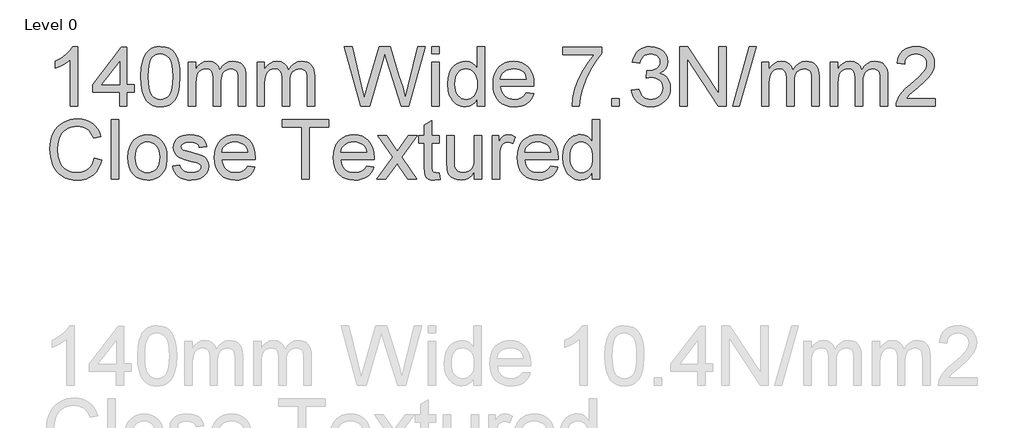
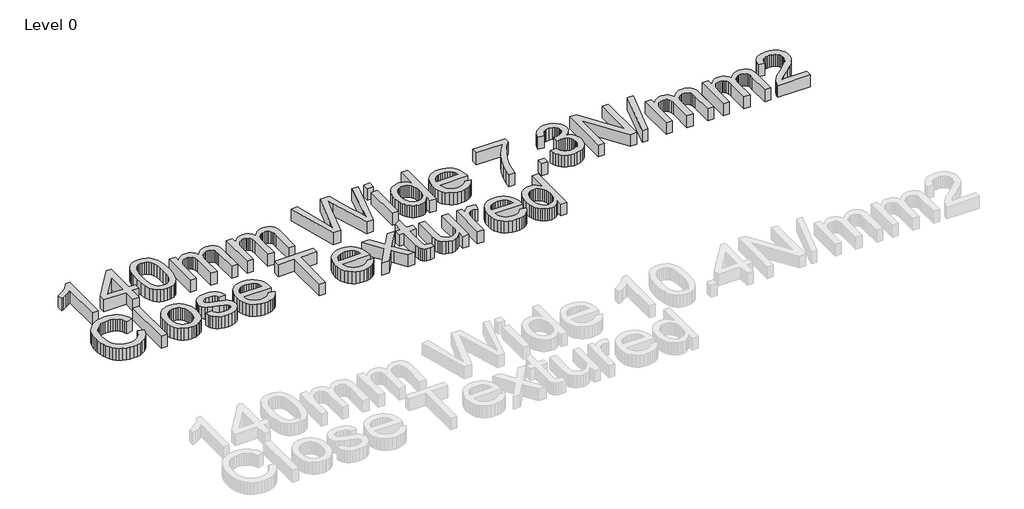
# One storey, part 9 of 14: 1 proxy.
"""IFC4 building model written with IfcOpenShell, lengths in millimetres."""

from ifc_helpers import new_model, si_unit, origin, origin_with_axes, place, context, project, spatial, polyline, outline, extrude, element, save

model = new_model("IFC4")

# Units and contexts
model_context = context("Model", 3, world=origin())
ifc_project = project(units=[si_unit("LENGTHUNIT", "METRE", prefix="MILLI")], contexts=[model_context])

# Site, building, storey
site = spatial("IfcSite", under=ifc_project)
building = spatial("IfcBuilding", under=site)
storey = spatial("IfcBuildingStorey", under=building, Name="Level 0", Elevation=0.0)

# Proxy
placement = place(None, origin())
element("IfcBuildingElementProxy", 1, Name="600mm Arial", ObjectType="600mm Arial", at=placement, inside=storey, context=model_context, shape_type="SweptSolid", body=[
    extrude(outline(polyline([(-13529.5844607, 14363.068453), (-13603.4306145, 14363.068453), (-13603.4306145, 14823.4530684), (-13634.2599414, 14798.5191742), (-13673.3825376, 14773.6213376), (-13714.4522491, 14751.8605203), (-13751.1229222, 14736.3376838), (-13751.1229222, 14806.1453761), (-13693.1241241, 14837.6958568), (-13642.8777299, 14875.2319145), (-13603.2683549, 14915.1477799), (-13577.1806145, 14953.8376838), (-13529.5844607, 14953.8376838), (-13529.5844607, 14363.068453)])), origin_with_axes(), (0.0, 0.0, 1.0), 150.0),
    extrude(outline(polyline([(-13114.1998453, 14363.068453), (-13114.1998453, 14501.5299915), (-13381.892153, 14501.5299915), (-13381.892153, 14575.3761453), (-13095.7383068, 14944.6069145), (-13040.3536914, 14944.6069145), (-13040.3536914, 14575.3761453), (-12966.5075376, 14575.3761453), (-12966.5075376, 14501.5299915), (-13040.3536914, 14501.5299915), (-13040.3536914, 14363.068453), (-13114.1998453, 14363.068453)]), holes=[polyline([(-13114.1998453, 14575.3761453), (-13114.1998453, 14803.5492222), (-13291.0267683, 14575.3761453), (-13114.1998453, 14575.3761453)])]), origin_with_axes(), (0.0, 0.0, 1.0), 150.0),
    extrude(outline(polyline([(-12901.892153, 14653.693453), (-12896.4654703, 14748.2547511), (-12889.6821169, 14788.3554121), (-12880.1854222, 14823.6694145), (-12868.015951, 14854.4852198), (-12853.2142683, 14881.0912895), (-12835.7803741, 14903.4876237), (-12815.7142683, 14921.6742222), (-12792.9483429, 14935.7457367), (-12767.4149895, 14945.7968184), (-12739.1142082, 14951.8274674), (-12708.0459991, 14953.8376838), (-12662.5411914, 14949.0780684), (-12621.7959991, 14934.7992222), (-12587.7214799, 14911.5600395), (-12562.2286914, 14879.9194145), (-12542.9738837, 14840.1477799), (-12527.6133068, 14792.5155684), (-12517.5532107, 14732.0287895), (-12514.1998453, 14653.693453), (-12519.5724414, 14559.6730203), (-12526.2881866, 14519.7075756), (-12535.6902299, 14484.4386453), (-12547.7650496, 14453.6093184), (-12562.4991241, 14426.9626838), (-12579.8924534, 14404.4987415), (-12599.9450376, 14386.2174915), (-12622.7380063, 14372.0513256), (-12648.3524895, 14361.9326357), (-12676.7884871, 14355.8614218), (-12708.0459991, 14353.8376838), (-12748.719076, 14357.3533088), (-12784.7767683, 14367.9001838), (-12816.219076, 14385.4783088), (-12843.0459991, 14410.0876838), (-12868.7911914, 14454.5738617), (-12887.1806145, 14510.0035492), (-12898.2142683, 14576.3767463), (-12901.892153, 14653.693453)]), holes=[polyline([(-12828.0459991, 14653.8376838), (-12825.8825376, 14589.6414698), (-12819.392153, 14537.677828), (-12808.5748453, 14497.9467583), (-12793.4306145, 14470.4482607), (-12775.1133068, 14451.7388256), (-12754.7767683, 14438.3749434), (-12732.4209991, 14430.3566141), (-12708.0459991, 14427.6838376), (-12683.6709991, 14430.3656285), (-12661.3152299, 14438.4110011), (-12640.9786914, 14451.8199554), (-12622.6613837, 14470.5924915), (-12607.517153, 14498.1360612), (-12596.6998453, 14537.8581165), (-12590.2094607, 14589.7586573), (-12588.0459991, 14653.8376838), (-12590.1373453, 14716.334679), (-12596.4113837, 14767.3833568), (-12606.8681145, 14806.9837174), (-12621.5075376, 14835.1357607), (-12639.5183549, 14854.7601597), (-12660.0892683, 14868.7775876), (-12683.220278, 14877.1880443), (-12708.9113837, 14879.9915299), (-12733.1601818, 14877.521578), (-12755.1373453, 14870.1117222), (-12774.8428741, 14857.7619626), (-12792.2767683, 14840.4722992), (-12807.9258068, 14809.8232607), (-12819.1036914, 14768.5011453), (-12825.8104222, 14716.505953), (-12828.0459991, 14653.8376838)])]), origin_with_axes(), (0.0, 0.0, 1.0), 150.0),
    extrude(outline(polyline([(-12431.1229222, 14363.068453), (-12431.1229222, 14796.9146068), (-12357.2767683, 14796.9146068), (-12357.2767683, 14725.5203761), (-12335.0652299, 14758.3148472), (-12306.5075376, 14784.005953), (-12272.5772491, 14800.6105203), (-12234.2479222, 14806.1453761), (-12193.1782107, 14800.5023472), (-12175.6992443, 14793.4485612), (-12160.2575376, 14783.5732607), (-12135.6661914, 14756.4759049), (-12119.5844607, 14720.3280684), (-12092.6673933, 14757.8731405), (-12061.9642683, 14784.6910492), (-12027.4750857, 14800.7817943), (-11989.1998453, 14806.1453761), (-11959.6370448, 14803.9143064), (-11933.689028, 14797.2210972), (-11911.3557948, 14786.0657487), (-11892.6373453, 14770.4482607), (-11877.8401698, 14750.1883448), (-11867.2707587, 14725.1057126), (-11860.9291121, 14695.2003641), (-11858.8152299, 14660.4722992), (-11858.8152299, 14363.068453), (-11932.6613837, 14363.068453), (-11932.6613837, 14628.7415299), (-11934.3741241, 14665.5744626), (-11939.5123453, 14690.4001838), (-11949.1397491, 14707.4013857), (-11964.3200376, 14720.7607607), (-11983.845278, 14729.4146068), (-12006.5075376, 14732.2992222), (-12027.4345207, 14730.4512655), (-12046.5135472, 14724.9073953), (-12063.7446169, 14715.6676117), (-12079.1277299, 14702.7319145), (-12091.7794727, 14685.7216982), (-12100.8164318, 14664.2583568), (-12106.2386073, 14638.3418905), (-12108.0459991, 14607.9722992), (-12108.0459991, 14363.068453), (-12181.892153, 14363.068453), (-12181.892153, 14636.9626838), (-12186.1649895, 14678.7174915), (-12198.9834991, 14708.5011453), (-12208.8948573, 14718.912804), (-12221.5375857, 14726.349703), (-12236.9116842, 14730.8118424), (-12255.017153, 14732.2992222), (-12283.4666722, 14728.3328761), (-12309.6806145, 14716.4338376), (-12331.3152299, 14696.8905684), (-12346.0267683, 14669.9915299), (-12354.4642683, 14632.6718184), (-12357.2767683, 14581.8665299), (-12357.2767683, 14363.068453), (-12431.1229222, 14363.068453)])), origin_with_axes(), (0.0, 0.0, 1.0), 150.0),
    extrude(outline(polyline([(-11748.0459991, 14363.068453), (-11748.0459991, 14796.9146068), (-11674.1998453, 14796.9146068), (-11674.1998453, 14725.5203761), (-11651.9883068, 14758.3148472), (-11623.4306145, 14784.005953), (-11589.500326, 14800.6105203), (-11551.1709991, 14806.1453761), (-11510.1012876, 14800.5023472), (-11492.6223212, 14793.4485612), (-11477.1806145, 14783.5732607), (-11452.5892683, 14756.4759049), (-11436.5075376, 14720.3280684), (-11409.5904703, 14757.8731405), (-11378.8873453, 14784.6910492), (-11344.3981626, 14800.7817943), (-11306.1229222, 14806.1453761), (-11276.5601217, 14803.9143064), (-11250.6121049, 14797.2210972), (-11228.2788717, 14786.0657487), (-11209.5604222, 14770.4482607), (-11194.7632467, 14750.1883448), (-11184.1938357, 14725.1057126), (-11177.852189, 14695.2003641), (-11175.7383068, 14660.4722992), (-11175.7383068, 14363.068453), (-11249.5844607, 14363.068453), (-11249.5844607, 14628.7415299), (-11251.297201, 14665.5744626), (-11256.4354222, 14690.4001838), (-11266.062826, 14707.4013857), (-11281.2431145, 14720.7607607), (-11300.7683549, 14729.4146068), (-11323.4306145, 14732.2992222), (-11344.3575977, 14730.4512655), (-11363.4366241, 14724.9073953), (-11380.6676938, 14715.6676117), (-11396.0508068, 14702.7319145), (-11408.7025496, 14685.7216982), (-11417.7395087, 14664.2583568), (-11423.1616842, 14638.3418905), (-11424.969076, 14607.9722992), (-11424.969076, 14363.068453), (-11498.8152299, 14363.068453), (-11498.8152299, 14636.9626838), (-11503.0880664, 14678.7174915), (-11515.906576, 14708.5011453), (-11525.8179342, 14718.912804), (-11538.4606626, 14726.349703), (-11553.8347611, 14730.8118424), (-11571.9402299, 14732.2992222), (-11600.3897491, 14728.3328761), (-11626.6036914, 14716.4338376), (-11648.2383068, 14696.8905684), (-11662.9498453, 14669.9915299), (-11671.3873453, 14632.6718184), (-11674.1998453, 14581.8665299), (-11674.1998453, 14363.068453), (-11748.0459991, 14363.068453)])), origin_with_axes(), (0.0, 0.0, 1.0), 150.0),
    extrude(outline(polyline([(-10719.2479222, 14363.068453), (-10880.3536914, 14953.8376838), (-10804.1998453, 14953.8376838), (-10710.7383068, 14565.568453), (-10681.892153, 14445.7126838), (-10651.0267683, 14551.7222992), (-10533.9113837, 14953.8376838), (-10424.1517683, 14953.8376838), (-10339.0556145, 14662.3472992), (-10302.6012876, 14554.1742222), (-10275.7383068, 14445.7126838), (-10247.7575376, 14562.1069145), (-10153.4306145, 14953.8376838), (-10077.2767683, 14953.8376838), (-10238.5267683, 14363.068453), (-10317.4209991, 14363.068453), (-10459.0556145, 14818.8376838), (-10478.8152299, 14882.443453), (-10501.0267683, 14805.8569145), (-10630.1133068, 14363.068453), (-10719.2479222, 14363.068453)])), origin_with_axes(), (0.0, 0.0, 1.0), 150.0),
    extrude(outline(polyline([(-10012.6613837, 14363.068453), (-10012.6613837, 14796.9146068), (-9938.8152299, 14796.9146068), (-9938.8152299, 14363.068453), (-10012.6613837, 14363.068453)])), origin_with_axes(), (0.0, 0.0, 1.0), 150.0),
    extrude(outline(polyline([(-10012.6613837, 14879.9915299), (-10012.6613837, 14953.8376838), (-9938.8152299, 14953.8376838), (-9938.8152299, 14879.9915299), (-10012.6613837, 14879.9915299)])), origin_with_axes(), (0.0, 0.0, 1.0), 150.0),
    extrude(outline(polyline([(-9560.3536914, 14363.068453), (-9560.3536914, 14432.7319145), (-9582.4480424, 14398.2156886), (-9609.2118645, 14373.5612415), (-9640.6451578, 14358.7685732), (-9676.7479222, 14353.8376838), (-9701.1229222, 14355.6225395), (-9724.4883068, 14360.9771068), (-9746.844076, 14369.9013857), (-9768.1902299, 14382.3953761), (-9787.859701, 14398.0849794), (-9805.1854222, 14416.5960972), (-9820.1673933, 14437.9287294), (-9832.8056145, 14462.0828761), (-9842.8386674, 14488.5988016), (-9850.0051337, 14517.0167703), (-9855.7383068, 14579.5588376), (-9850.4558549, 14641.3256645), (-9834.6084991, 14697.1069145), (-9822.7274895, 14721.959679), (-9808.2142683, 14743.7295107), (-9791.0688357, 14762.4164097), (-9771.2911914, 14778.0203761), (-9749.5799534, 14790.3250636), (-9726.6337395, 14799.1141261), (-9702.4525496, 14804.3875636), (-9677.0363837, 14806.1453761), (-9640.906576, 14801.115328), (-9608.9594607, 14786.0251838), (-9581.8801337, 14762.8941742), (-9560.3536914, 14733.7415299), (-9560.3536914, 14953.8376838), (-9486.5075376, 14953.8376838), (-9486.5075376, 14363.068453), (-9560.3536914, 14363.068453)]), holes=[polyline([(-9781.892153, 14579.8472992), (-9779.8098212, 14544.0375035), (-9773.562826, 14513.0504242), (-9763.1511674, 14486.8860612), (-9748.5748453, 14465.5444145), (-9731.1679943, 14448.9804121), (-9712.2647491, 14437.1489818), (-9691.8651097, 14430.0501237), (-9669.969076, 14427.6838376), (-9647.9693765, 14429.9419506), (-9627.6914318, 14436.7162895), (-9609.1352419, 14448.0068544), (-9592.3008068, 14463.8136453), (-9578.3239438, 14484.2628641), (-9568.3404703, 14509.4807126), (-9562.3503861, 14539.467191), (-9560.3536914, 14574.2222992), (-9562.3864438, 14612.3262655), (-9568.484701, 14645.0035492), (-9578.6484631, 14672.2541501), (-9592.8777299, 14694.0780684), (-9610.0817563, 14710.7998232), (-9629.1697972, 14722.7439338), (-9650.1418525, 14729.9104001), (-9672.9979222, 14732.2992222), (-9695.3266482, 14730.0050516), (-9715.7262876, 14723.1225395), (-9734.1968405, 14711.6516862), (-9750.7383068, 14695.5924915), (-9764.3681145, 14674.5933929), (-9774.1036914, 14648.302828), (-9779.9450376, 14616.7207968), (-9781.892153, 14579.8472992)])]), origin_with_axes(), (0.0, 0.0, 1.0), 150.0),
    extrude(outline(polyline([(-9071.9883068, 14492.2992222), (-8999.5844607, 14483.068453), (-9010.6857227, 14454.069054), (-9025.672201, 14428.5131645), (-9044.5438957, 14406.4007847), (-9067.3008068, 14387.7319145), (-9093.7085592, 14372.9031886), (-9123.532778, 14362.3112415), (-9156.7734631, 14355.9560732), (-9193.4306145, 14353.8376838), (-9239.250927, 14357.4930323), (-9280.0772491, 14368.459078), (-9315.9095808, 14386.7358208), (-9346.7479222, 14412.3232607), (-9371.5466001, 14444.5092583), (-9389.2599414, 14482.5816742), (-9399.8879462, 14526.5405083), (-9403.4306145, 14576.3857607), (-9399.8518885, 14627.9212174), (-9389.1157107, 14673.3448953), (-9371.2220808, 14712.6567943), (-9346.1709991, 14745.8569145), (-9315.4137876, 14772.2331165), (-9280.4017683, 14791.0732607), (-9241.1349414, 14802.3773472), (-9197.6133068, 14806.1453761), (-9155.493415, 14802.3863617), (-9117.4029703, 14791.1093184), (-9083.3419727, 14772.3142463), (-9053.3104222, 14746.0011453), (-9028.7956986, 14712.8731405), (-9011.2851818, 14673.6333568), (-9000.7788717, 14628.2817943), (-8997.2767683, 14576.818453), (-8997.7094607, 14556.9146068), (-9329.5844607, 14556.9146068), (-9325.3071169, 14527.4464578), (-9316.8020087, 14501.6381645), (-9304.0691361, 14479.489727), (-9287.1084991, 14461.0011453), (-9266.8575977, 14446.4248232), (-9244.2539318, 14436.0131645), (-9219.2975015, 14429.7661693), (-9191.9883068, 14427.6838376), (-9152.6854222, 14431.5420107), (-9119.5844607, 14443.1165299), (-9092.6854222, 14463.1285492), (-9071.9883068, 14492.2992222)]), holes=[polyline([(-9329.5844607, 14630.7607607), (-9071.1229222, 14630.7607607), (-9081.110903, 14669.7751838), (-9089.7016482, 14685.1177318), (-9100.6902299, 14697.6838376), (-9120.828451, 14712.8280684), (-9143.7431145, 14723.6453761), (-9169.4342203, 14730.1357607), (-9197.9017683, 14732.2992222), (-9223.867814, 14730.5729602), (-9247.6794126, 14725.3941742), (-9269.336564, 14716.7628641), (-9288.8392683, 14704.6790299), (-9305.2049534, 14689.701566), (-9317.4510472, 14672.3893665), (-9325.5775496, 14652.7424314), (-9329.5844607, 14630.7607607)])]), origin_with_axes(), (0.0, 0.0, 1.0), 150.0),
    extrude(outline(polyline([(-8711.1229222, 14870.7607607), (-8711.1229222, 14944.6069145), (-8323.4306145, 14944.6069145), (-8323.4306145, 14884.8953761), (-8378.689028, 14814.9614818), (-8433.406576, 14726.0251838), (-8481.6697972, 14626.1994626), (-8517.5652299, 14523.5972992), (-8535.1613837, 14446.8304722), (-8544.969076, 14363.068453), (-8618.8152299, 14363.068453), (-8610.828451, 14439.1862415), (-8589.4642683, 14529.6549915), (-8555.2996049, 14625.5504242), (-8508.9113837, 14717.9482607), (-8454.7527299, 14801.4759049), (-8397.2767683, 14870.7607607), (-8711.1229222, 14870.7607607)])), origin_with_axes(), (0.0, 0.0, 1.0), 150.0),
    extrude(outline(polyline([(-8221.892153, 14363.068453), (-8221.892153, 14436.9146068), (-8148.0459991, 14436.9146068), (-8148.0459991, 14363.068453), (-8221.892153, 14363.068453)])), origin_with_axes(), (0.0, 0.0, 1.0), 150.0),
    extrude(outline(polyline([(-8028.0459991, 14519.9915299), (-7954.1998453, 14529.2222992), (-7937.6673933, 14482.8160492), (-7926.5210592, 14465.2649674), (-7913.454653, 14451.4819145), (-7898.1706986, 14441.0702559), (-7880.3717203, 14433.6333568), (-7860.0577179, 14429.1712174), (-7837.2286914, 14427.6838376), (-7810.4738837, 14429.7301117), (-7786.6036914, 14435.8689338), (-7765.6181145, 14446.100304), (-7747.517153, 14460.4242222), (-7732.9408308, 14477.7679722), (-7722.5291722, 14497.0588376), (-7716.282177, 14518.2968184), (-7714.1998453, 14541.4819145), (-7716.2641482, 14563.5627439), (-7722.4570568, 14583.6513857), (-7732.7785712, 14601.74784), (-7747.2286914, 14617.8521068), (-7764.860903, 14631.0717583), (-7784.7286914, 14640.5143665), (-7806.8320568, 14646.1799314), (-7831.1709991, 14648.068453), (-7854.500326, 14646.0492222), (-7882.9498453, 14639.9915299), (-7874.7286914, 14713.8376838), (-7862.9017683, 14712.9722992), (-7818.6589799, 14718.2727799), (-7779.1036914, 14734.1742222), (-7762.8236433, 14746.1994626), (-7751.1950376, 14761.0732607), (-7744.2178741, 14778.7956165), (-7741.892153, 14799.3665299), (-7743.5778501, 14816.0657487), (-7748.6349414, 14831.2595588), (-7757.063427, 14844.9479602), (-7768.8633068, 14857.130953), (-7783.3224414, 14867.1324554), (-7799.7286914, 14874.2763857), (-7838.3825376, 14879.9915299), (-7877.1084991, 14874.2222992), (-7893.8212395, 14867.0107607), (-7908.767153, 14856.9146068), (-7921.5766482, 14843.9338376), (-7931.8801337, 14828.068453), (-7939.6776097, 14809.318453), (-7944.969076, 14787.6838376), (-8018.8152299, 14796.9146068), (-8010.0622251, 14832.1700155), (-7997.0724414, 14863.224703), (-7979.8458789, 14890.0786693), (-7958.3825376, 14912.7319145), (-7933.3584991, 14930.7156886), (-7905.4498453, 14943.5612415), (-7874.656576, 14951.2685732), (-7840.9786914, 14953.8376838), (-7794.5544126, 14948.771578), (-7751.9161914, 14933.5732607), (-7715.9666722, 14909.5948953), (-7689.6084991, 14878.1886453), (-7673.4366241, 14842.0047511), (-7668.0459991, 14803.693453), (-7673.1661914, 14767.9963376), (-7688.5267683, 14735.6165299), (-7713.9113837, 14708.0323953), (-7749.1036914, 14686.7222992), (-7724.4943164, 14679.0239818), (-7702.8777299, 14668.0444145), (-7684.2539318, 14653.7835972), (-7668.6229222, 14636.2415299), (-7656.2551337, 14615.8509049), (-7647.4209991, 14593.0444145), (-7642.1205183, 14567.8220588), (-7640.3536914, 14540.1838376), (-7643.8873453, 14502.7198953), (-7654.4883068, 14468.2126838), (-7672.156576, 14436.662203), (-7696.892153, 14408.068453), (-7727.0273693, 14384.3424915), (-7760.8945568, 14367.3953761), (-7798.4937155, 14357.2271068), (-7839.8248453, 14353.8376838), (-7877.1806145, 14356.7313136), (-7911.219076, 14365.412203), (-7941.9402299, 14379.880352), (-7969.344076, 14400.1357607), (-7992.3218405, 14424.9885251), (-8009.7647491, 14453.2487415), (-8021.672802, 14484.9164097), (-8028.0459991, 14519.9915299)])), origin_with_axes(), (0.0, 0.0, 1.0), 150.0),
    extrude(outline(polyline([(-7548.0459991, 14363.068453), (-7548.0459991, 14953.8376838), (-7469.0075376, 14953.8376838), (-7160.3536914, 14485.8088376), (-7160.3536914, 14953.8376838), (-7086.5075376, 14953.8376838), (-7086.5075376, 14363.068453), (-7165.5459991, 14363.068453), (-7474.1998453, 14831.2415299), (-7474.1998453, 14363.068453), (-7548.0459991, 14363.068453)])), origin_with_axes(), (0.0, 0.0, 1.0), 150.0),
    extrude(outline(polyline([(-7021.892153, 14363.068453), (-6855.7383068, 14953.8376838), (-6789.1036914, 14953.8376838), (-6955.2575376, 14363.068453), (-7021.892153, 14363.068453)])), origin_with_axes(), (0.0, 0.0, 1.0), 150.0),
    extrude(outline(polyline([(-6735.7383068, 14363.068453), (-6735.7383068, 14796.9146068), (-6661.892153, 14796.9146068), (-6661.892153, 14725.5203761), (-6639.6806145, 14758.3148472), (-6611.1229222, 14784.005953), (-6577.1926337, 14800.6105203), (-6538.8633068, 14806.1453761), (-6497.7935953, 14800.5023472), (-6480.3146289, 14793.4485612), (-6464.8729222, 14783.5732607), (-6440.281576, 14756.4759049), (-6424.1998453, 14720.3280684), (-6397.282778, 14757.8731405), (-6366.579653, 14784.6910492), (-6332.0904703, 14800.7817943), (-6293.8152299, 14806.1453761), (-6264.2524294, 14803.9143064), (-6238.3044126, 14797.2210972), (-6215.9711794, 14786.0657487), (-6197.2527299, 14770.4482607), (-6182.4555544, 14750.1883448), (-6171.8861433, 14725.1057126), (-6165.5444967, 14695.2003641), (-6163.4306145, 14660.4722992), (-6163.4306145, 14363.068453), (-6237.2767683, 14363.068453), (-6237.2767683, 14628.7415299), (-6238.9895087, 14665.5744626), (-6244.1277299, 14690.4001838), (-6253.7551337, 14707.4013857), (-6268.9354222, 14720.7607607), (-6288.4606626, 14729.4146068), (-6311.1229222, 14732.2992222), (-6332.0499054, 14730.4512655), (-6351.1289318, 14724.9073953), (-6368.3600015, 14715.6676117), (-6383.7431145, 14702.7319145), (-6396.3948573, 14685.7216982), (-6405.4318164, 14664.2583568), (-6410.8539919, 14638.3418905), (-6412.6613837, 14607.9722992), (-6412.6613837, 14363.068453), (-6486.5075376, 14363.068453), (-6486.5075376, 14636.9626838), (-6490.7803741, 14678.7174915), (-6503.5988837, 14708.5011453), (-6513.5102419, 14718.912804), (-6526.1529703, 14726.349703), (-6541.5270688, 14730.8118424), (-6559.6325376, 14732.2992222), (-6588.0820568, 14728.3328761), (-6614.2959991, 14716.4338376), (-6635.9306145, 14696.8905684), (-6650.642153, 14669.9915299), (-6659.079653, 14632.6718184), (-6661.892153, 14581.8665299), (-6661.892153, 14363.068453), (-6735.7383068, 14363.068453)])), origin_with_axes(), (0.0, 0.0, 1.0), 150.0),
    extrude(outline(polyline([(-6052.6613837, 14363.068453), (-6052.6613837, 14796.9146068), (-5978.8152299, 14796.9146068), (-5978.8152299, 14725.5203761), (-5956.6036914, 14758.3148472), (-5928.0459991, 14784.005953), (-5894.1157107, 14800.6105203), (-5855.7863837, 14806.1453761), (-5814.7166722, 14800.5023472), (-5797.2377058, 14793.4485612), (-5781.7959991, 14783.5732607), (-5757.204653, 14756.4759049), (-5741.1229222, 14720.3280684), (-5714.2058549, 14757.8731405), (-5683.5027299, 14784.6910492), (-5649.0135472, 14800.7817943), (-5610.7383068, 14806.1453761), (-5581.1755063, 14803.9143064), (-5555.2274895, 14797.2210972), (-5532.8942563, 14786.0657487), (-5514.1758068, 14770.4482607), (-5499.3786313, 14750.1883448), (-5488.8092203, 14725.1057126), (-5482.4675736, 14695.2003641), (-5480.3536914, 14660.4722992), (-5480.3536914, 14363.068453), (-5554.1998453, 14363.068453), (-5554.1998453, 14628.7415299), (-5555.9125857, 14665.5744626), (-5561.0508068, 14690.4001838), (-5570.6782107, 14707.4013857), (-5585.8584991, 14720.7607607), (-5605.3837395, 14729.4146068), (-5628.0459991, 14732.2992222), (-5648.9729823, 14730.4512655), (-5668.0520087, 14724.9073953), (-5685.2830784, 14715.6676117), (-5700.6661914, 14702.7319145), (-5713.3179342, 14685.7216982), (-5722.3548933, 14664.2583568), (-5727.7770688, 14638.3418905), (-5729.5844607, 14607.9722992), (-5729.5844607, 14363.068453), (-5803.4306145, 14363.068453), (-5803.4306145, 14636.9626838), (-5807.703451, 14678.7174915), (-5820.5219607, 14708.5011453), (-5830.4333188, 14718.912804), (-5843.0760472, 14726.349703), (-5858.4501457, 14730.8118424), (-5876.5556145, 14732.2992222), (-5905.0051337, 14728.3328761), (-5931.219076, 14716.4338376), (-5952.8536914, 14696.8905684), (-5967.5652299, 14669.9915299), (-5976.0027299, 14632.6718184), (-5978.8152299, 14581.8665299), (-5978.8152299, 14363.068453), (-6052.6613837, 14363.068453)])), origin_with_axes(), (0.0, 0.0, 1.0), 150.0),
    extrude(outline(polyline([(-5009.5844607, 14436.9146068), (-5009.5844607, 14363.068453), (-5397.2767683, 14363.068453), (-5395.6541722, 14389.0660492), (-5389.344076, 14413.9819145), (-5371.1349414, 14453.771578), (-5344.4883068, 14492.3713376), (-5305.9426337, 14532.7739818), (-5252.0363837, 14577.9722992), (-5172.3488837, 14648.7535492), (-5124.5363837, 14701.0011453), (-5110.5910712, 14722.3472992), (-5100.6301337, 14743.4049915), (-5094.6535712, 14764.1742222), (-5092.6613837, 14784.6549915), (-5094.5408909, 14803.9233208), (-5100.1794126, 14821.6321549), (-5109.5769486, 14837.7814939), (-5122.7334991, 14852.3713376), (-5138.9188957, 14864.4551718), (-5157.4029703, 14873.0864818), (-5178.1857227, 14878.2652679), (-5201.267153, 14879.9915299), (-5225.5835592, 14878.3058328), (-5247.3308549, 14873.2487415), (-5266.50904, 14864.8202559), (-5283.1181145, 14853.0203761), (-5296.5541121, 14838.2457367), (-5306.2130664, 14820.8929722), (-5312.0949775, 14800.9620828), (-5314.1998453, 14778.4530684), (-5388.0459991, 14787.6838376), (-5381.6953381, 14825.8058328), (-5370.1433549, 14859.1141261), (-5353.3900496, 14887.6087174), (-5331.4354222, 14911.2896068), (-5304.7842804, 14929.9043905), (-5273.9414318, 14943.2006645), (-5238.9068765, 14951.178429), (-5199.6806145, 14953.8376838), (-5160.10279, 14950.880953), (-5124.8789318, 14942.0107607), (-5094.00904, 14927.2271068), (-5067.4931145, 14906.5299915), (-5046.19654, 14881.4518665), (-5030.984701, 14853.5251838), (-5021.8575977, 14822.7499434), (-5018.8152299, 14789.1261453), (-5022.0964799, 14753.8076357), (-5031.9402299, 14719.1021068), (-5049.4101818, 14683.8016261), (-5075.5700376, 14646.6982607), (-5117.2707587, 14602.4013857), (-5181.3633068, 14545.5203761), (-5266.3152299, 14474.4867222), (-5299.6325376, 14436.9146068), (-5009.5844607, 14436.9146068)])), origin_with_axes(), (0.0, 0.0, 1.0), 150.0),
    extrude(outline(polyline([(-13363.4306145, 13843.8376838), (-13289.5844607, 13824.7992222), (-13304.1968405, 13778.8752439), (-13323.6589799, 13738.7475395), (-13347.9708789, 13704.4161093), (-13377.1325376, 13675.880953), (-13410.485903, 13653.4485612), (-13447.3729222, 13637.4254242), (-13487.7935953, 13627.8115419), (-13531.7479222, 13624.6069145), (-13576.7794727, 13627.0317943), (-13617.4029703, 13634.3064338), (-13653.618415, 13646.4308328), (-13685.4258068, 13663.4049915), (-13713.2623453, 13684.9765059), (-13737.5652299, 13710.8929722), (-13758.3344607, 13741.1543905), (-13775.5700376, 13775.7607607), (-13789.1051938, 13813.2156886), (-13798.7731626, 13852.0227799), (-13804.5739438, 13892.1820347), (-13806.5075376, 13933.693453), (-13804.32154, 13978.2337174), (-13797.7635472, 14019.8352799), (-13786.8335592, 14058.4981405), (-13771.531576, 14094.2222992), (-13752.2001457, 14126.4173112), (-13729.1818164, 14154.4927318), (-13702.4765881, 14178.4485612), (-13672.0844607, 14198.2847992), (-13639.0375857, 14213.8391862), (-13604.3681145, 14224.9494626), (-13568.0760472, 14231.6156285), (-13530.1613837, 14233.8376838), (-13487.9243044, 14230.9620828), (-13449.1938357, 14222.3352799), (-13413.9699775, 14207.9572751), (-13382.2527299, 14187.8280684), (-13354.5649294, 14162.4795107), (-13331.4294126, 14132.443453), (-13312.8461794, 14097.7198953), (-13298.8152299, 14058.3088376), (-13372.6613837, 14040.7126838), (-13384.2899895, 14069.7526477), (-13398.2623453, 14094.5648472), (-13414.578451, 14115.1492823), (-13433.2383068, 14131.505953), (-13454.3500857, 14143.9683929), (-13478.0219607, 14152.8701357), (-13504.2539318, 14158.2111814), (-13533.0459991, 14159.9915299), (-13566.1740039, 14158.0173713), (-13596.4714799, 14152.0948953), (-13623.938427, 14142.224102), (-13648.5748453, 14128.4049915), (-13670.0697371, 14111.2595588), (-13688.1121049, 14091.4097992), (-13702.7019486, 14068.8557126), (-13713.8392683, 14043.5972992), (-13727.9558549, 13989.5468184), (-13732.6613837, 13933.8376838), (-13727.0904703, 13865.6165299), (-13720.1268284, 13834.9674915), (-13710.3777299, 13806.6261453), (-13697.6854222, 13781.1558929), (-13681.892153, 13759.1201357), (-13662.9979222, 13740.5188737), (-13641.0027299, 13725.3521068), (-13616.9747852, 13713.5837775), (-13591.9822972, 13705.177828), (-13566.0252659, 13700.1342583), (-13539.1036914, 13698.4530684), (-13506.9988236, 13700.7427318), (-13477.4630664, 13707.6117222), (-13450.4964198, 13719.0600395), (-13426.0988837, 13735.0876838), (-13404.8473813, 13755.6225395), (-13387.3188357, 13780.5924915), (-13373.5132467, 13809.9975395), (-13363.4306145, 13843.8376838)])), origin_with_axes(), (0.0, 0.0, 1.0), 150.0),
    extrude(outline(polyline([(-13197.2767683, 13633.8376838), (-13197.2767683, 14224.6069145), (-13123.4306145, 14224.6069145), (-13123.4306145, 13633.8376838), (-13197.2767683, 13633.8376838)])), origin_with_axes(), (0.0, 0.0, 1.0), 150.0),
    extrude(outline(polyline([(-13031.1229222, 13850.7607607), (-13027.1295328, 13906.9476597), (-13015.1493645, 13955.3641261), (-12995.1824174, 13996.0101597), (-12967.2286914, 14028.8857607), (-12939.0856626, 14049.8983809), (-12908.0219607, 14064.9073953), (-12874.0375857, 14073.912804), (-12837.1325376, 14076.9146068), (-12796.3918525, 14073.2592583), (-12759.5544126, 14062.2932126), (-12726.6202179, 14044.0164698), (-12697.5892683, 14018.4290299), (-12673.8948573, 13986.3962775), (-12656.970278, 13948.7835972), (-12646.8155304, 13905.5909891), (-12643.4306145, 13856.818453), (-12644.9270087, 13817.2902078), (-12649.4161914, 13782.2150876), (-12656.8981626, 13751.5930924), (-12667.3729222, 13725.4242222), (-12680.7097611, 13702.8205564), (-12696.7779703, 13682.8941742), (-12715.5775496, 13665.6450756), (-12737.1084991, 13651.0732607), (-12760.5324775, 13639.4942343), (-12785.0111433, 13631.2235011), (-12810.5444967, 13626.2610612), (-12837.1325376, 13624.6069145), (-12878.4681746, 13628.2487415), (-12915.6481626, 13639.1742222), (-12948.6725015, 13657.3833568), (-12977.5411914, 13682.8761453), (-13000.9831986, 13715.2198953), (-13017.7274895, 13753.9819145), (-13027.774064, 13799.162203), (-13031.1229222, 13850.7607607)]), holes=[polyline([(-12957.2767683, 13850.9049915), (-12955.1403501, 13815.0861814), (-12948.7310953, 13784.0720588), (-12938.0490039, 13757.8626237), (-12923.094076, 13736.4578761), (-12904.9029703, 13719.8307727), (-12884.5123453, 13707.9542703), (-12861.922201, 13700.8283689), (-12837.1325376, 13698.4530684), (-12812.469076, 13700.8418905), (-12789.969076, 13708.0083568), (-12769.6325376, 13719.9524674), (-12751.4594607, 13736.6742222), (-12736.5045328, 13758.2908088), (-12725.8224414, 13784.9194145), (-12719.4131866, 13816.5600395), (-12717.2767683, 13853.2126838), (-12719.4267082, 13887.8956766), (-12725.876528, 13918.0985011), (-12736.6262275, 13943.8211573), (-12751.6758068, 13965.0636453), (-12769.9164919, 13981.6907487), (-12790.2395087, 13993.5672511), (-12812.6448573, 14000.6931525), (-12837.1325376, 14003.068453), (-12861.922201, 14000.7021669), (-12884.5123453, 13993.6033088), (-12904.9029703, 13981.7718785), (-12923.094076, 13965.2078761), (-12938.0490039, 13943.8662294), (-12948.7310953, 13917.7018665), (-12955.1403501, 13886.7147871), (-12957.2767683, 13850.9049915)])]), origin_with_axes(), (0.0, 0.0, 1.0), 150.0),
    extrude(outline(polyline([(-12588.0459991, 13763.068453), (-12514.1998453, 13772.2992222), (-12509.7377058, 13755.4602799), (-12502.5532107, 13740.7126838), (-12492.6463597, 13728.0564338), (-12480.017153, 13717.4915299), (-12464.6295328, 13709.162203), (-12446.4474414, 13703.2126838), (-12401.6998453, 13698.4530684), (-12357.4931145, 13702.8160492), (-12340.3116241, 13708.2697751), (-12326.4113837, 13715.9049915), (-12308.0219607, 13734.8713376), (-12301.892153, 13756.8665299), (-12303.4336193, 13766.8364818), (-12308.0580183, 13775.6886453), (-12326.5556145, 13790.0396068), (-12354.2118645, 13799.4146068), (-12402.5652299, 13811.0972992), (-12469.9570568, 13830.5864818), (-12513.767153, 13847.2271068), (-12541.9101818, 13865.3821549), (-12562.3008068, 13889.4146068), (-12574.6866241, 13917.7920107), (-12578.8152299, 13948.9819145), (-12575.4979222, 13977.5936934), (-12565.5459991, 14004.005953), (-12549.860903, 14027.1730203), (-12529.344076, 14046.0492222), (-12508.953451, 14057.9302318), (-12482.3969607, 14067.9001838), (-12451.6938357, 14074.6610011), (-12418.8633068, 14076.9146068), (-12370.798403, 14073.2908088), (-12329.0075376, 14062.4194145), (-12295.4017683, 14045.3641261), (-12271.892153, 14023.1886453), (-12256.3152299, 13994.2523472), (-12246.5075376, 13956.9146068), (-12320.3536914, 13947.6838376), (-12329.6746049, 13970.9230203), (-12348.1181145, 13988.4290299), (-12375.8645087, 13999.4085972), (-12413.094076, 14003.068453), (-12455.4979222, 13999.5708568), (-12483.767153, 13989.0780684), (-12499.6685953, 13973.9338376), (-12504.969076, 13956.4819145), (-12502.7695568, 13945.1237415), (-12496.1709991, 13934.9915299), (-12484.8849414, 13925.9410492), (-12468.6229222, 13918.693453), (-12405.017153, 13902.9722992), (-12296.6277299, 13868.2126838), (-12267.9979222, 13851.5900876), (-12246.2911914, 13828.8376838), (-12232.6072972, 13799.8833568), (-12228.0459991, 13764.6549915), (-12233.4005664, 13728.2367222), (-12249.4642683, 13693.9819145), (-12275.6241241, 13664.5768665), (-12311.267153, 13642.7078761), (-12354.3200376, 13629.1321549), (-12402.7094607, 13624.6069145), (-12442.454052, 13626.7884049), (-12477.1685953, 13633.3328761), (-12506.8530905, 13644.240328), (-12531.5075376, 13659.5107607), (-12551.6457587, 13679.0720588), (-12567.781576, 13702.8521068), (-12579.9149895, 13730.8509049), (-12588.0459991, 13763.068453)])), origin_with_axes(), (0.0, 0.0, 1.0), 150.0),
    extrude(outline(polyline([(-11841.219076, 13763.068453), (-11768.8152299, 13753.8376838), (-11779.9164919, 13724.8382847), (-11794.9029703, 13699.2823953), (-11813.774665, 13677.1700155), (-11836.531576, 13658.5011453), (-11862.9393284, 13643.6724193), (-11892.7635472, 13633.0804722), (-11926.0042323, 13626.725304), (-11962.6613837, 13624.6069145), (-12008.4816962, 13628.2622631), (-12049.3080183, 13639.2283088), (-12085.1403501, 13657.5050516), (-12115.9786914, 13683.0924915), (-12140.7773693, 13715.2784891), (-12158.4907107, 13753.3509049), (-12169.1187155, 13797.3097391), (-12172.6613837, 13847.1549915), (-12169.0826578, 13898.6904482), (-12158.3464799, 13944.1141261), (-12140.4528501, 13983.4260251), (-12115.4017683, 14016.6261453), (-12084.6445568, 14043.0023472), (-12049.6325376, 14061.8424915), (-12010.3657107, 14073.146578), (-11966.844076, 14076.9146068), (-11924.7241842, 14073.1555924), (-11886.6337395, 14061.8785492), (-11852.5727419, 14043.083477), (-11822.5411914, 14016.7703761), (-11798.0264679, 13983.6423713), (-11780.515951, 13944.4025876), (-11770.0096409, 13899.0510251), (-11766.5075376, 13847.5876838), (-11766.9402299, 13827.6838376), (-12098.8152299, 13827.6838376), (-12094.5378861, 13798.2156886), (-12086.032778, 13772.4073953), (-12073.2999054, 13750.2589578), (-12056.3392683, 13731.7703761), (-12036.0883669, 13717.194054), (-12013.484701, 13706.7823953), (-11988.5282707, 13700.5354001), (-11961.219076, 13698.4530684), (-11921.9161914, 13702.3112415), (-11888.8152299, 13713.8857607), (-11861.9161914, 13733.8977799), (-11841.219076, 13763.068453)]), holes=[polyline([(-12098.8152299, 13901.5299915), (-11840.3536914, 13901.5299915), (-11850.3416722, 13940.5444145), (-11858.9324174, 13955.8869626), (-11869.9209991, 13968.4530684), (-11890.0592203, 13983.5972992), (-11912.9738837, 13994.4146068), (-11938.6649895, 14000.9049915), (-11967.1325376, 14003.068453), (-11993.0985832, 14001.342191), (-12016.9101818, 13996.1634049), (-12038.5673332, 13987.5320948), (-12058.0700376, 13975.4482607), (-12074.4357227, 13960.4707968), (-12086.6818164, 13943.1585972), (-12094.8083188, 13923.5116621), (-12098.8152299, 13901.5299915)])]), origin_with_axes(), (0.0, 0.0, 1.0), 150.0),
    extrude(outline(polyline([(-11304.969076, 13633.8376838), (-11304.969076, 14150.7607607), (-11498.8152299, 14150.7607607), (-11498.8152299, 14224.6069145), (-11037.2767683, 14224.6069145), (-11037.2767683, 14150.7607607), (-11231.1229222, 14150.7607607), (-11231.1229222, 13633.8376838), (-11304.969076, 13633.8376838)])), origin_with_axes(), (0.0, 0.0, 1.0), 150.0),
    extrude(outline(polyline([(-10659.6806145, 13763.068453), (-10587.2767683, 13753.8376838), (-10598.3780304, 13724.8382847), (-10613.3645087, 13699.2823953), (-10632.2362034, 13677.1700155), (-10654.9931145, 13658.5011453), (-10681.4008669, 13643.6724193), (-10711.2250857, 13633.0804722), (-10744.4657707, 13626.725304), (-10781.1229222, 13624.6069145), (-10826.9432347, 13628.2622631), (-10867.7695568, 13639.2283088), (-10903.6018885, 13657.5050516), (-10934.4402299, 13683.0924915), (-10959.2389078, 13715.2784891), (-10976.9522491, 13753.3509049), (-10987.5802539, 13797.3097391), (-10991.1229222, 13847.1549915), (-10987.5441962, 13898.6904482), (-10976.8080183, 13944.1141261), (-10958.9143885, 13983.4260251), (-10933.8633068, 14016.6261453), (-10903.1060953, 14043.0023472), (-10868.094076, 14061.8424915), (-10828.8272491, 14073.146578), (-10785.3056145, 14076.9146068), (-10743.1857227, 14073.1555924), (-10705.095278, 14061.8785492), (-10671.0342804, 14043.083477), (-10641.0027299, 14016.7703761), (-10616.4880063, 13983.6423713), (-10598.9774895, 13944.4025876), (-10588.4711794, 13899.0510251), (-10584.969076, 13847.5876838), (-10585.4017683, 13827.6838376), (-10917.2767683, 13827.6838376), (-10912.9994246, 13798.2156886), (-10904.4943164, 13772.4073953), (-10891.7614438, 13750.2589578), (-10874.8008068, 13731.7703761), (-10854.5499054, 13717.194054), (-10831.9462395, 13706.7823953), (-10806.9898092, 13700.5354001), (-10779.6806145, 13698.4530684), (-10740.3777299, 13702.3112415), (-10707.2767683, 13713.8857607), (-10680.3777299, 13733.8977799), (-10659.6806145, 13763.068453)]), holes=[polyline([(-10917.2767683, 13901.5299915), (-10658.8152299, 13901.5299915), (-10668.8032107, 13940.5444145), (-10677.3939558, 13955.8869626), (-10688.3825376, 13968.4530684), (-10708.5207587, 13983.5972992), (-10731.4354222, 13994.4146068), (-10757.126528, 14000.9049915), (-10785.594076, 14003.068453), (-10811.5601217, 14001.342191), (-10835.3717203, 13996.1634049), (-10857.0288717, 13987.5320948), (-10876.531576, 13975.4482607), (-10892.8972611, 13960.4707968), (-10905.1433549, 13943.1585972), (-10913.2698573, 13923.5116621), (-10917.2767683, 13901.5299915)])]), origin_with_axes(), (0.0, 0.0, 1.0), 150.0),
    extrude(outline(polyline([(-10557.2767683, 13633.8376838), (-10399.4883068, 13851.9146068), (-10548.0459991, 14067.6838376), (-10459.1998453, 14067.6838376), (-10387.517153, 13963.8376838), (-10354.0556145, 13914.7992222), (-10325.0652299, 13954.8953761), (-10243.4306145, 14067.6838376), (-10154.5844607, 14067.6838376), (-10310.642153, 13851.9146068), (-10160.3536914, 13633.8376838), (-10249.1998453, 13633.8376838), (-10339.6325376, 13764.943453), (-10356.219076, 13788.8857607), (-10468.4306145, 13633.8376838), (-10557.2767683, 13633.8376838)])), origin_with_axes(), (0.0, 0.0, 1.0), 150.0),
    extrude(outline(polyline([(-9938.8152299, 13695.4242222), (-9929.5844607, 13631.6742222), (-9984.8248453, 13624.6069145), (-10020.2695568, 13627.6718184), (-10046.6998453, 13636.8665299), (-10065.3777299, 13651.037203), (-10077.5652299, 13669.0299915), (-10084.2719607, 13699.9314338), (-10086.5075376, 13752.8280684), (-10086.5075376, 13993.8376838), (-10141.892153, 13993.8376838), (-10141.892153, 14067.6838376), (-10086.5075376, 14067.6838376), (-10086.5075376, 14173.1165299), (-10012.6613837, 14216.5299915), (-10012.6613837, 14067.6838376), (-9938.8152299, 14067.6838376), (-9938.8152299, 13993.8376838), (-10012.6613837, 13993.8376838), (-10012.6613837, 13754.9915299), (-10008.767153, 13716.9146068), (-9996.1469607, 13703.4290299), (-9985.4919126, 13699.6970588), (-9970.9786914, 13698.4530684), (-9938.8152299, 13695.4242222)])), origin_with_axes(), (0.0, 0.0, 1.0), 150.0),
    extrude(outline(polyline([(-9588.0459991, 13633.8376838), (-9588.0459991, 13708.4049915), (-9614.7647491, 13671.7433328), (-9645.8825376, 13645.5564338), (-9681.3993645, 13629.8442943), (-9721.3152299, 13624.6069145), (-9757.282778, 13628.2847992), (-9790.7623453, 13639.318453), (-9818.8512876, 13655.9049915), (-9838.6469607, 13676.2415299), (-9851.970278, 13700.9410492), (-9860.642153, 13730.6165299), (-9864.969076, 13799.2703761), (-9864.969076, 14067.6838376), (-9791.1229222, 14067.6838376), (-9791.1229222, 13834.0299915), (-9790.0051337, 13787.2992222), (-9786.6517683, 13758.7415299), (-9775.8885472, 13733.6273472), (-9757.4450376, 13714.5347992), (-9732.547201, 13702.4735011), (-9702.4209991, 13698.4530684), (-9670.564028, 13702.5636453), (-9640.7623453, 13714.8953761), (-9616.189028, 13734.3124434), (-9600.017153, 13759.6790299), (-9591.0387876, 13794.4206165), (-9588.0459991, 13841.9626838), (-9588.0459991, 14067.6838376), (-9514.1998453, 14067.6838376), (-9514.1998453, 13633.8376838), (-9588.0459991, 13633.8376838)])), origin_with_axes(), (0.0, 0.0, 1.0), 150.0),
    extrude(outline(polyline([(-9412.6613837, 13633.8376838), (-9412.6613837, 14067.6838376), (-9348.0459991, 14067.6838376), (-9348.0459991, 14003.5011453), (-9324.1758068, 14040.7126838), (-9302.1806145, 14062.6357607), (-9280.1133068, 14073.3448953), (-9256.0267683, 14076.9146068), (-9219.2479222, 14071.2174915), (-9181.892153, 14054.1261453), (-9206.5556145, 13987.9242222), (-9232.517153, 13999.2823953), (-9258.4786914, 14003.068453), (-9280.5279703, 13999.4266261), (-9300.2334991, 13988.5011453), (-9316.1529703, 13971.1213376), (-9326.844076, 13948.1165299), (-9335.8224414, 13906.8665299), (-9338.8152299, 13861.8665299), (-9338.8152299, 13633.8376838), (-9412.6613837, 13633.8376838)])), origin_with_axes(), (0.0, 0.0, 1.0), 150.0),
    extrude(outline(polyline([(-8831.9883068, 13763.068453), (-8759.5844607, 13753.8376838), (-8770.6857227, 13724.8382847), (-8785.672201, 13699.2823953), (-8804.5438957, 13677.1700155), (-8827.3008068, 13658.5011453), (-8853.7085592, 13643.6724193), (-8883.532778, 13633.0804722), (-8916.7734631, 13626.725304), (-8953.4306145, 13624.6069145), (-8999.250927, 13628.2622631), (-9040.0772491, 13639.2283088), (-9075.9095808, 13657.5050516), (-9106.7479222, 13683.0924915), (-9131.5466001, 13715.2784891), (-9149.2599414, 13753.3509049), (-9159.8879462, 13797.3097391), (-9163.4306145, 13847.1549915), (-9159.8518885, 13898.6904482), (-9149.1157107, 13944.1141261), (-9131.2220808, 13983.4260251), (-9106.1709991, 14016.6261453), (-9075.4137876, 14043.0023472), (-9040.4017683, 14061.8424915), (-9001.1349414, 14073.146578), (-8957.6133068, 14076.9146068), (-8915.493415, 14073.1555924), (-8877.4029703, 14061.8785492), (-8843.3419727, 14043.083477), (-8813.3104222, 14016.7703761), (-8788.7956986, 13983.6423713), (-8771.2851818, 13944.4025876), (-8760.7788717, 13899.0510251), (-8757.2767683, 13847.5876838), (-8757.7094607, 13827.6838376), (-9089.5844607, 13827.6838376), (-9085.3071169, 13798.2156886), (-9076.8020087, 13772.4073953), (-9064.0691361, 13750.2589578), (-9047.1084991, 13731.7703761), (-9026.8575977, 13717.194054), (-9004.2539318, 13706.7823953), (-8979.2975015, 13700.5354001), (-8951.9883068, 13698.4530684), (-8912.6854222, 13702.3112415), (-8879.5844607, 13713.8857607), (-8852.6854222, 13733.8977799), (-8831.9883068, 13763.068453)]), holes=[polyline([(-9089.5844607, 13901.5299915), (-8831.1229222, 13901.5299915), (-8841.110903, 13940.5444145), (-8849.7016482, 13955.8869626), (-8860.6902299, 13968.4530684), (-8880.828451, 13983.5972992), (-8903.7431145, 13994.4146068), (-8929.4342203, 14000.9049915), (-8957.9017683, 14003.068453), (-8983.867814, 14001.342191), (-9007.6794126, 13996.1634049), (-9029.336564, 13987.5320948), (-9048.8392683, 13975.4482607), (-9065.2049534, 13960.4707968), (-9077.4510472, 13943.1585972), (-9085.5775496, 13923.5116621), (-9089.5844607, 13901.5299915)])]), origin_with_axes(), (0.0, 0.0, 1.0), 150.0),
    extrude(outline(polyline([(-8415.7383068, 13633.8376838), (-8415.7383068, 13703.5011453), (-8437.8326578, 13668.9849193), (-8464.5964799, 13644.3304722), (-8496.0297732, 13629.537804), (-8532.1325376, 13624.6069145), (-8556.5075376, 13626.3917703), (-8579.8729222, 13631.7463376), (-8602.2286914, 13640.6706165), (-8623.5748453, 13653.1646068), (-8643.2443164, 13668.8542102), (-8660.5700376, 13687.365328), (-8675.5520087, 13708.6979602), (-8688.1902299, 13732.8521068), (-8698.2232828, 13759.3680323), (-8705.3897491, 13787.7860011), (-8711.1229222, 13850.3280684), (-8705.8404703, 13912.0948953), (-8689.9931145, 13967.8761453), (-8678.1121049, 13992.7289097), (-8663.5988837, 14014.4987415), (-8646.453451, 14033.1856405), (-8626.6758068, 14048.7896068), (-8604.9645688, 14061.0942943), (-8582.0183549, 14069.8833568), (-8557.837165, 14075.1567943), (-8532.4209991, 14076.9146068), (-8496.2911914, 14071.8845588), (-8464.344076, 14056.7944145), (-8437.2647491, 14033.6634049), (-8415.7383068, 14004.5107607), (-8415.7383068, 14224.6069145), (-8341.892153, 14224.6069145), (-8341.892153, 13633.8376838), (-8415.7383068, 13633.8376838)]), holes=[polyline([(-8637.2767683, 13850.6165299), (-8635.1944366, 13814.8067343), (-8628.9474414, 13783.8196549), (-8618.5357828, 13757.6552919), (-8603.9594607, 13736.3136453), (-8586.5526097, 13719.7496429), (-8567.6493645, 13707.9182126), (-8547.2497251, 13700.8193544), (-8525.3536914, 13698.4530684), (-8503.3539919, 13700.7111814), (-8483.0760472, 13707.4855203), (-8464.5198573, 13718.7760852), (-8447.6854222, 13734.5828761), (-8433.7085592, 13755.0320948), (-8423.7250857, 13780.2499434), (-8417.7350015, 13810.2364218), (-8415.7383068, 13844.9915299), (-8417.7710592, 13883.0954963), (-8423.8693164, 13915.7727799), (-8434.0330784, 13943.0233809), (-8448.2623453, 13964.8472992), (-8465.4663717, 13981.569054), (-8484.5544126, 13993.5131645), (-8505.5264679, 14000.6796309), (-8528.3825376, 14003.068453), (-8550.7112635, 14000.7742823), (-8571.110903, 13993.8917703), (-8589.5814558, 13982.4209169), (-8606.1229222, 13966.3617222), (-8619.7527299, 13945.3626237), (-8629.4883068, 13919.0720588), (-8635.329653, 13887.4900275), (-8637.2767683, 13850.6165299)])]), origin_with_axes(), (0.0, 0.0, 1.0), 150.0),
])

save(model, "model.ifc")
